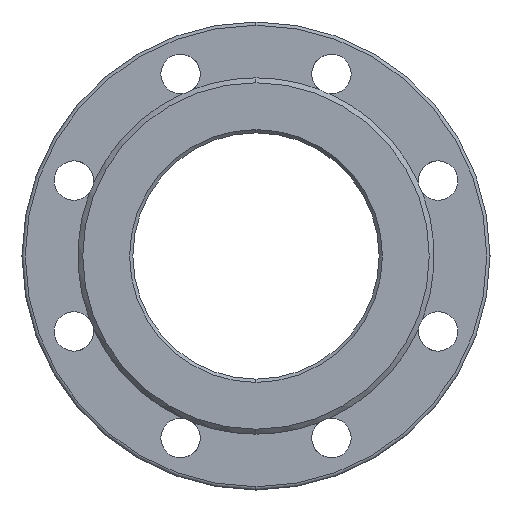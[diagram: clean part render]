
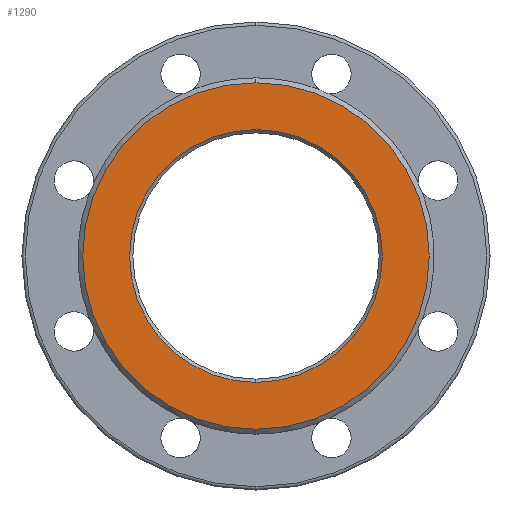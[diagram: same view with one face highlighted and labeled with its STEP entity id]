
A CAD part, left-side view. The second image highlights one B-rep face of the part: STEP entity #1290.
In plain terms, the highlighted planar face has unit normal (-1, 0, 0).
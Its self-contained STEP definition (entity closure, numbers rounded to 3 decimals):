
#113 = CIRCLE ( 'NONE', #3799, 77. ) ;
#149 = DIRECTION ( 'NONE',  ( 0., 0., 1. ) ) ;
#427 = VERTEX_POINT ( 'NONE', #3415 ) ;
#496 = PLANE ( 'NONE',  #692 ) ;
#511 = DIRECTION ( 'NONE',  ( 1., 0., 0. ) ) ;
#692 = AXIS2_PLACEMENT_3D ( 'NONE', #2358, #1286, #3493 ) ;
#753 = ORIENTED_EDGE ( 'NONE', *, *, #4146, .T. ) ;
#767 = EDGE_CURVE ( 'Defeatured_0_4+Defeatured_0_20+Defeatured_0_20+Defeatured_0_20', #4500, #2989, #997, .T. ) ;
#910 = DIRECTION ( 'NONE',  ( 0., 0., -1. ) ) ;
#997 = CIRCLE ( 'NONE', #1231, 77. ) ;
#1192 = CIRCLE ( 'NONE', #4407, 105.5 ) ;
#1231 = AXIS2_PLACEMENT_3D ( 'NONE', #3081, #3817, #4522 ) ;
#1281 = DIRECTION ( 'NONE',  ( -1., 0., 0. ) ) ;
#1286 = DIRECTION ( 'NONE',  ( 1., 0., 0. ) ) ;
#1290 = ADVANCED_FACE ( 'Defeatured_0_4', ( #3862, #1988 ), #496, .F. ) ;
#1432 = EDGE_LOOP ( 'NONE', ( #4008, #753 ) ) ;
#1592 = AXIS2_PLACEMENT_3D ( 'NONE', #4639, #1281, #149 ) ;
#1610 = EDGE_CURVE ( 'Defeatured_0_4+Defeatured_0_20+Defeatured_0_20+Defeatured_0_20', #2989, #4500, #113, .T. ) ;
#1657 = ORIENTED_EDGE ( 'NONE', *, *, #1610, .T. ) ;
#1988 = FACE_OUTER_BOUND ( 'NONE', #1432, .T. ) ;
#2109 = CARTESIAN_POINT ( 'NONE',  ( -350., 0., 0. ) ) ;
#2358 = CARTESIAN_POINT ( 'NONE',  ( -350., 75., 0. ) ) ;
#2429 = CARTESIAN_POINT ( 'NONE',  ( -350., 0., 0. ) ) ;
#2480 = EDGE_CURVE ( 'Defeatured_0_4+Defeatured_0_0+Defeatured_0_0+Defeatured_0_0', #2884, #427, #2692, .T. ) ;
#2692 = CIRCLE ( 'NONE', #1592, 105.5 ) ;
#2884 = VERTEX_POINT ( 'NONE', #4419 ) ;
#2989 = VERTEX_POINT ( 'NONE', #3190 ) ;
#3040 = CARTESIAN_POINT ( 'NONE',  ( -350., 0., -77. ) ) ;
#3081 = CARTESIAN_POINT ( 'NONE',  ( -350., 0., 0. ) ) ;
#3190 = CARTESIAN_POINT ( 'NONE',  ( -350., 0., 77. ) ) ;
#3415 = CARTESIAN_POINT ( 'NONE',  ( -350., 0., 105.5 ) ) ;
#3493 = DIRECTION ( 'NONE',  ( 0., 0., -1. ) ) ;
#3799 = AXIS2_PLACEMENT_3D ( 'NONE', #2429, #511, #910 ) ;
#3817 = DIRECTION ( 'NONE',  ( 1., 0., 0. ) ) ;
#3862 = FACE_BOUND ( 'NONE', #4246, .T. ) ;
#3934 = DIRECTION ( 'NONE',  ( 0., 0., 1. ) ) ;
#4008 = ORIENTED_EDGE ( 'NONE', *, *, #2480, .T. ) ;
#4146 = EDGE_CURVE ( 'Defeatured_0_4+Defeatured_0_0+Defeatured_0_0+Defeatured_0_0', #427, #2884, #1192, .T. ) ;
#4246 = EDGE_LOOP ( 'NONE', ( #1657, #4579 ) ) ;
#4407 = AXIS2_PLACEMENT_3D ( 'NONE', #2109, #4667, #3934 ) ;
#4419 = CARTESIAN_POINT ( 'NONE',  ( -350., 0., -105.5 ) ) ;
#4500 = VERTEX_POINT ( 'NONE', #3040 ) ;
#4522 = DIRECTION ( 'NONE',  ( 0., 0., -1. ) ) ;
#4579 = ORIENTED_EDGE ( 'NONE', *, *, #767, .T. ) ;
#4639 = CARTESIAN_POINT ( 'NONE',  ( -350., 0., 0. ) ) ;
#4667 = DIRECTION ( 'NONE',  ( -1., 0., 0. ) ) ;
